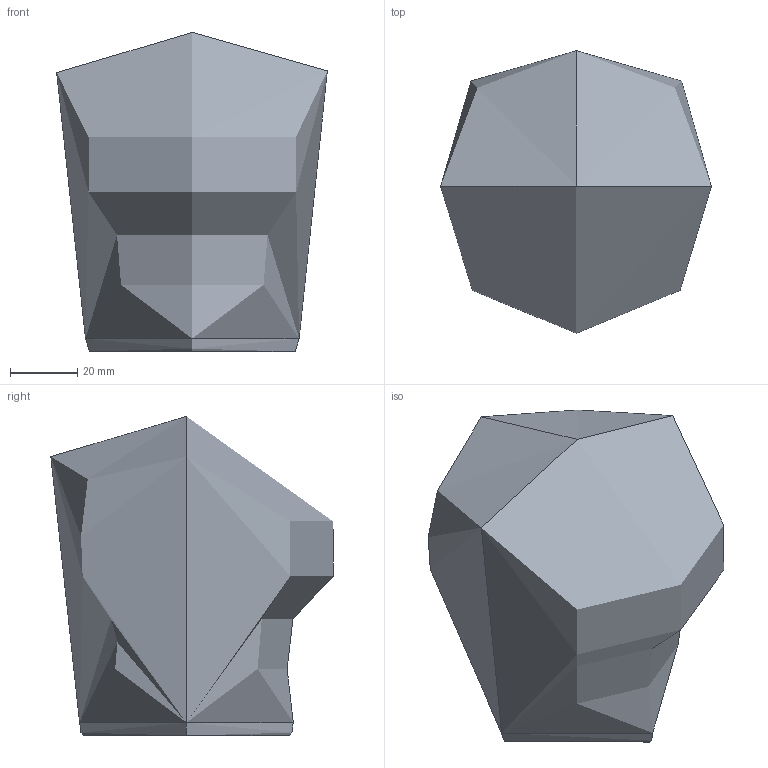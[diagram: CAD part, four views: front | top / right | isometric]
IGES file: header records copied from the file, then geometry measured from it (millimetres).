
Global section: file name: C:\Users\colombo_c\Desktop\Danese\Sito\3D mancanti\Pebosto peso\Pebosto peso L.igs; native system: Rhinoceros ( Apr 16 2024 ); preprocessor: Trout Lake IGES 012 Apr 16 2024; date: 250718.094253; units: millimetre
Bounding box: 80.56 x 84.05 x 95 mm (x, y, z)
Surface area: 32763.1 mm2 (no closed solid volume)
Topology: 0 solids, 0 shells, 8 faces, 34 edges, 28 vertices
Faces by surface type: bspline 8
